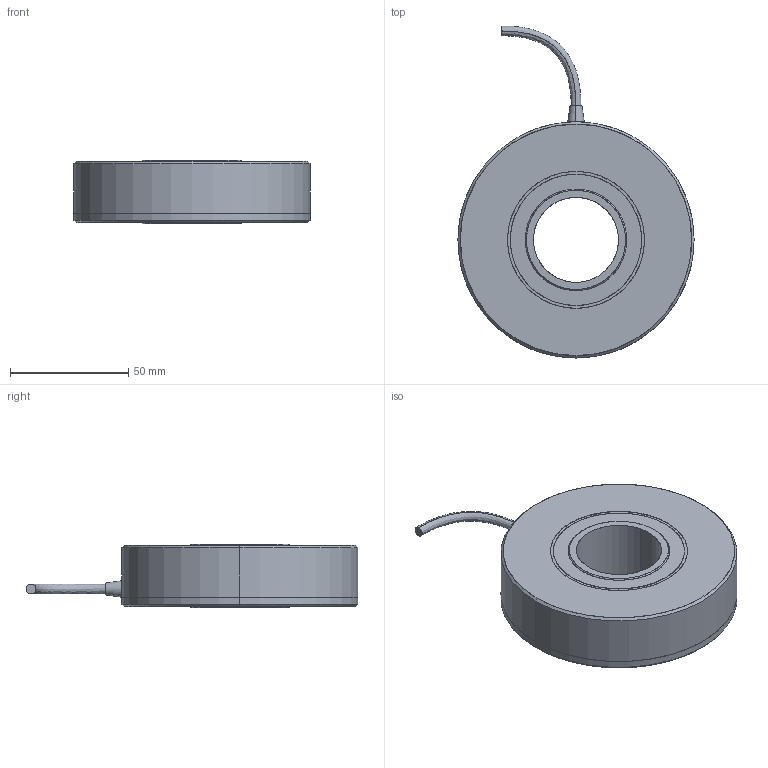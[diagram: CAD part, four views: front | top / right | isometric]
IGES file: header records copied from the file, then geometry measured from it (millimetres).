
Start section: SolidWorks IGES file using analytic representation for surfaces
Bounding box: 100 x 140.59 x 27 mm (x, y, z)
Surface area: 45798.5 mm2 (no closed solid volume)
Topology: 0 solids, 0 shells, 60 faces, 1968 edges, 1968 vertices
Faces by surface type: revolution 42, bspline 18
